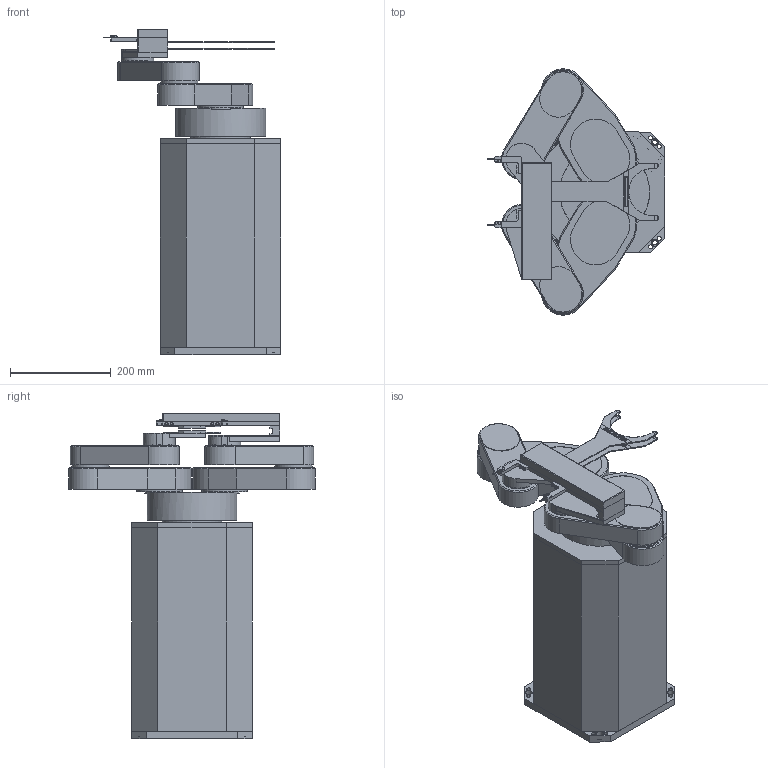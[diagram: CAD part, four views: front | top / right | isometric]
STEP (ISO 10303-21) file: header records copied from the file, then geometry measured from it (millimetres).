
FILE_DESCRIPTION(/* description */ (''),/* implementation_level */ '2;1');
FILE_NAME(/* name */ 'C:\Users\h-mitaka\Desktop\\X2\FF8EFF70FF91FF8DFF9FFF70FF7CFF9E7528\X0\\STCR4160S-300-PM-10773\STCR4160S-300-PM-10773.stp',/* time_stamp */ '2015-07-27T13:53:40+09:00',/* author */ ('h-mitaka'),/* organization */ (''),/* preprocessor_version */ 'ST-DEVELOPER v16.1',/* originating_system */ 'Autodesk Inventor 2016',/* authorisation */ '');
FILE_SCHEMA (('AUTOMOTIVE_DESIGN { 1 0 10303 214 3 1 1 }'));
Length unit declared in the file: millimetre
Products named in the file (10): BODY-SCTB300-V; PIPE-SCT300; ARM1-SC160; ARM2-SC160; WRIST-BLOCK1; WRIST-BLOCK2; 3D-02229; COVER-00553-1; COVER-00553-2; STCR4160S-300-PM-10773
Assembly tree (12 placements, depth 2):
  STCR4160S-300-PM-10773
    BODY-SCTB300-V
    PIPE-SCT300
    ARM1-SC160  x2
    ARM2-SC160  x2
    WRIST-BLOCK1
    WRIST-BLOCK2
    3D-02229  x2
    COVER-00553-1
    COVER-00553-2
Bounding box: 353.99 x 490.14 x 648 mm (x, y, z)
Volume: 28486720 mm3; surface area: 1223713.5 mm2
Topology: 12 solids, 12 shells, 526 faces, 1301 edges, 856 vertices
Faces by surface type: plane 369, cylinder 135, cone 22
Full cylindrical faces by diameter (mm): 3 x8, 3.5 x4, 3.6 x4, 4 x2, 5.5 x8, 6 x4, 8 x8, 9 x4, 10 x4, 14 x4, 50 x4, 51 x1, 59 x2, 61 x2, 74 x2, 91 x2, 119 x2, 179 x1
Entity records: 12496 total; most frequent: DIRECTION 2128, CARTESIAN_POINT 2108, ORIENTED_EDGE 1944, EDGE_CURVE 972, LINE 724, VECTOR 724, AXIS2_PLACEMENT_3D 702, VERTEX_POINT 682
